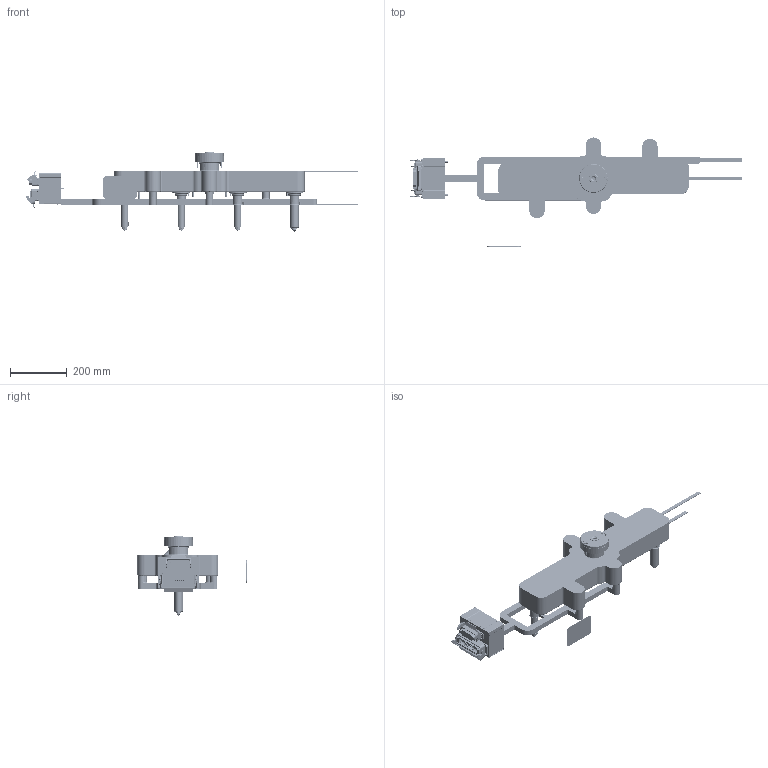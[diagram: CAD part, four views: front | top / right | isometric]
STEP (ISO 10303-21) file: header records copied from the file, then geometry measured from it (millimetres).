
FILE_DESCRIPTION(/* description */ (''),/* implementation_level */ '2;1');
FILE_NAME(/* name */ '369116_3D_ASSY_11607236_0.stp',/* time_stamp */ '2022-06-09T14:38:41+08:00',/* author */ ('HUSKY IMS'),/* organization */ ('HUSKY IMS'),/* preprocessor_version */ 'ST-DEVELOPER v16',/* originating_system */ 'SIEMENS PLM Software NX 11.0',/* authorisation */ '');
FILE_SCHEMA (('AUTOMOTIVE_DESIGN { 1 0 10303 214 3 1 1 1 }'));
Products named in the file (1): yeli3074CF3D194e
Bounding box: 1173.52 x 385.53 x 280.38 mm (x, y, z)
Volume: 14854587.1 mm3; surface area: 1386892.1 mm2
Topology: 170 solids, 170 shells, 4639 faces, 11609 edges, 7520 vertices
Faces by surface type: plane 2231, cylinder 1574, cone 380, torus 232, bspline 159, sphere 63
Full cylindrical faces by diameter (mm): 0.452 x1, 0.591 x1, 0.76 x2, 0.84 x2, 1 x8, 1.5 x1, 2.5 x44, 2.7 x1, 2.874 x8, 3 x55, 3.05 x12, 3.2 x28, 3.3 x38, 3.4 x4, 3.838 x28, 4 x8, 4.4 x4, 4.55 x1, 4.763 x2, 4.8 x4, 5 x20, 5.03 x4, 5.106 x2, 5.11 x4, 5.111 x2, 5.5 x12, 5.795 x7, 6 x8, 6.144 x6, 6.3 x8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
Entity records: 145753 total; most frequent: CARTESIAN_POINT 35507, DIRECTION 19818, ORIENTED_EDGE 19540, EDGE_CURVE 9770, AXIS2_PLACEMENT_3D 7243, VERTEX_POINT 7013, EDGE_LOOP 6575, LINE 5332
